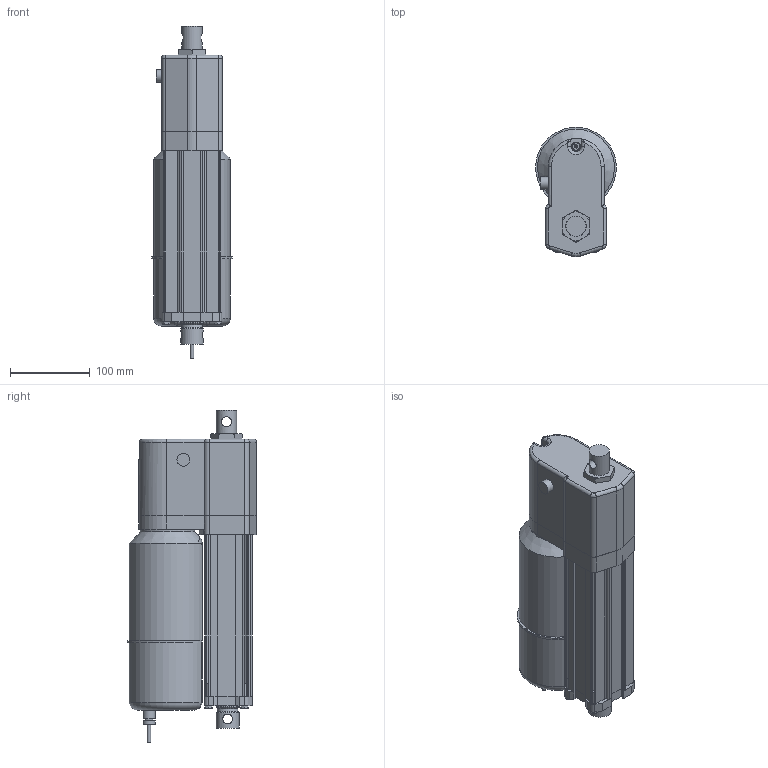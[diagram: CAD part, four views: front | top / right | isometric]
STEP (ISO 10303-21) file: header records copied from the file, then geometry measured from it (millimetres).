
FILE_DESCRIPTION (( 'STEP AP214' ), '1' );
FILE_NAME ('AA22-05A65M-15M0NPO-tollo.step', '2020-04-13T18:58:50', ( '' ), ( '' ), 'SwSTEP 2.0', 'SolidWorks 2010', '' );
FILE_SCHEMA (( 'AUTOMOTIVE_DESIGN' ));
Length unit declared in the file: millimetre
Products named in the file (8): Electrak-LA24-Motor-AA22-05A65M-15M0NPO-tollo_Electrak-LA24-Motor-AA22-05A65M-15M0NPO-tollo; Electrak-LA24-Rear-AA22-05A65M-15M0NPO-tollo_Electrak-LA24-Rear-AA22-05A65M-15M0NPO-tollo; Electrak-LA24-Tube-AA22-05A65M-15M0NPO-tollo_Electrak-LA24-Tube-AA22-05A65M-15M0NPO-tollo; Electrak-LA24-Rod-AA22-05A65M-15M0NPO-tollo_Electrak-LA24-Rod-AA22-05A65M-15M0NPO-tollo; Electrak-LA24-Plate-AA22-05A65M-15M0NPO-tollo_Electrak-LA24-Plate-AA22-05A65M-15M0NPO-tollo; Screw-MFX-H-M5_Screw-MFX-H-M5x24H; Screw-M6S-M5-AA22-05A65M-15M0NPO-tollo_Screw-M6S-M5-AA22-05A65M-15M0NPO-tollo; AA22-05A65M-15M0NPO-tollo
Assembly tree (10 placements, depth 2):
  AA22-05A65M-15M0NPO-tollo
    Electrak-LA24-Rod-AA22-05A65M-15M0NPO-tollo_Electrak-LA24-Rod-AA22-05A65M-15M0NPO-tollo
    Electrak-LA24-Rear-AA22-05A65M-15M0NPO-tollo_Electrak-LA24-Rear-AA22-05A65M-15M0NPO-tollo
    Electrak-LA24-Tube-AA22-05A65M-15M0NPO-tollo_Electrak-LA24-Tube-AA22-05A65M-15M0NPO-tollo
    Screw-M6S-M5-AA22-05A65M-15M0NPO-tollo_Screw-M6S-M5-AA22-05A65M-15M0NPO-tollo  x4
    Electrak-LA24-Motor-AA22-05A65M-15M0NPO-tollo_Electrak-LA24-Motor-AA22-05A65M-15M0NPO-tollo
    Screw-MFX-H-M5_Screw-MFX-H-M5x24H
    Electrak-LA24-Plate-AA22-05A65M-15M0NPO-tollo_Electrak-LA24-Plate-AA22-05A65M-15M0NPO-tollo
Bounding box: 100.99 x 162.5 x 415.3 mm (x, y, z)
Volume: 3079603.6 mm3; surface area: 317168.1 mm2
Topology: 10 solids, 10 shells, 355 faces, 890 edges, 575 vertices
Faces by surface type: plane 175, cylinder 129, cone 31, torus 15, bspline 3, sphere 2
Full cylindrical faces by diameter (mm): 4 x1, 4.126 x5, 4.8 x6, 5 x5, 5.6 x4, 7.878 x4, 9.3 x1, 10 x1, 12.2 x2, 15 x2, 16 x1, 25.4 x1, 28.6 x4, 47.625 x1, 68 x1
Entity records: 9673 total; most frequent: CARTESIAN_POINT 2403, DIRECTION 1454, ORIENTED_EDGE 1342, EDGE_CURVE 671, AXIS2_PLACEMENT_3D 531, VERTEX_POINT 462, LINE 392, VECTOR 392
